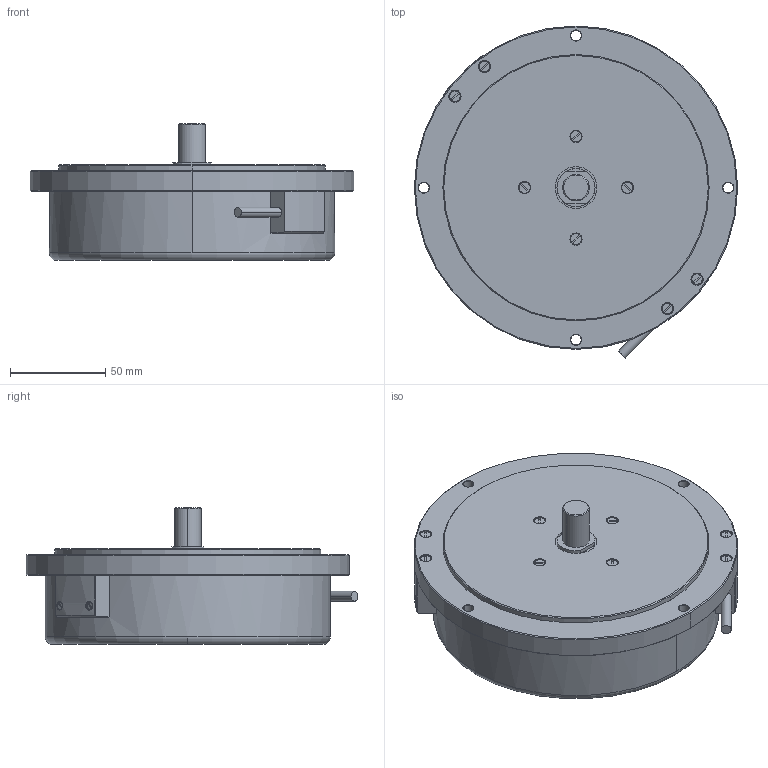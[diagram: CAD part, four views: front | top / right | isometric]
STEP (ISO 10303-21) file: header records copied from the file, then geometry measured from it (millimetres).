
FILE_DESCRIPTION (( 'STEP AP203' ), '1' );
FILE_NAME ('ﾋﾈﾐ-1170ﾀ.STEP', '2014-07-21T09:59:03', ( '' ), ( '' ), 'SwSTEP 2.0', 'SolidWorks 2013', '' );
FILE_SCHEMA (( 'CONFIG_CONTROL_DESIGN' ));
Length unit declared in the file: millimetre
Products named in the file (1): ﾋﾈﾐ-1170ﾀ
Bounding box: 170 x 174.52 x 72 mm (x, y, z)
Volume: 948341.4 mm3; surface area: 75795.6 mm2
Topology: 14 solids, 14 shells, 231 faces, 524 edges, 338 vertices
Faces by surface type: plane 107, cylinder 76, cone 42, bspline 4, torus 2
Entity records: 9412 total; most frequent: CARTESIAN_POINT 3965, DIRECTION 1210, ORIENTED_EDGE 1048, EDGE_CURVE 524, AXIS2_PLACEMENT_3D 488, VERTEX_POINT 338, CIRCLE 260, EDGE_LOOP 258
